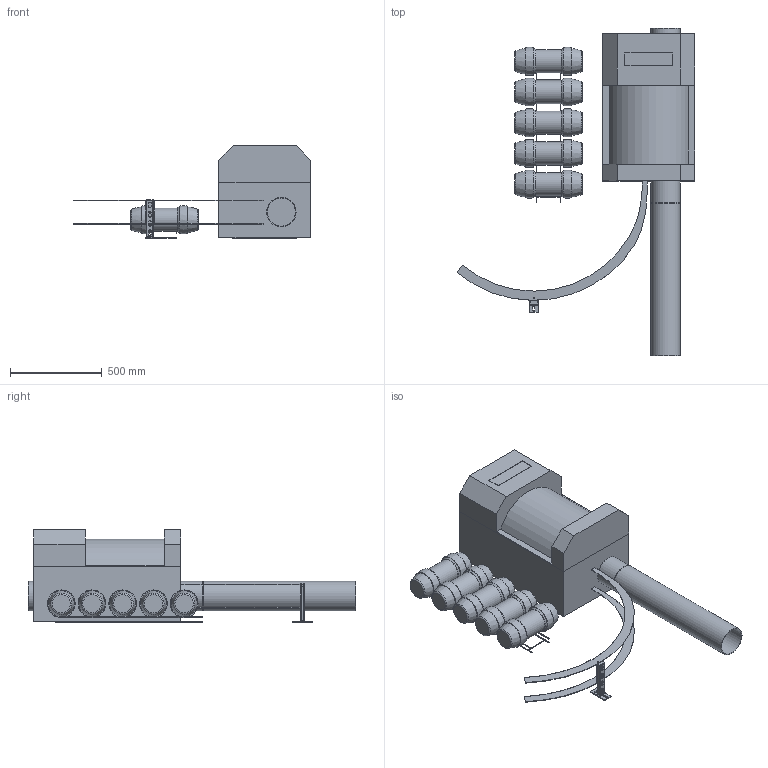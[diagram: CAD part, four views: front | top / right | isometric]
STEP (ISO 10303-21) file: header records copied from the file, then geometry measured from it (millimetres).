
FILE_DESCRIPTION(/* description */ (''),/* implementation_level */ '2;1');
FILE_NAME(/* name */ 'Q:\I_Simples\Library\Inventor\Stations\461T_A300_DF\Step\S461_T_F_RB.stp',/* time_stamp */ '2023-07-03T09:18:26+02:00',/* author */ ('Ru'),/* organization */ (''),/* preprocessor_version */ 'ST-DEVELOPER v18.1',/* originating_system */ 'Autodesk Inventor 2022',/* authorisation */ '');
FILE_SCHEMA (('AUTOMOTIVE_DESIGN { 1 0 10303 214 3 1 1 }'));
Length unit declared in the file: millimetre
Products named in the file (14): 12615T00_461 Apl_A100_AutocadDummies; 10461T_BG_A3; 10461T_Body_ A3; 10461T_Door_ A3; 1.0461.T.45; ro160-830; 10026T00_Auslaufbuegel_VA-Do160_Dummy; 10026T10_Abrollbuegel_Kurz 2; Halte winkel; 7.1166.5.21; 7.1166.5.46; Assembly2; 19001T00_Behälteranlage_Dummy_A200; 19350T0L-dummy
Assembly tree (18 placements, depth 3):
  12615T00_461 Apl_A100_AutocadDummies
    10461T_BG_A3
      10461T_Body_ A3
      10461T_Door_ A3
      1.0461.T.45
    ro160-830
    10026T00_Auslaufbuegel_VA-Do160_Dummy
      10026T10_Abrollbuegel_Kurz 2  x2
      Halte winkel
    7.1166.5.21
    7.1166.5.46
    Assembly2
      19001T00_Behälteranlage_Dummy_A200
      19350T0L-dummy  x5
Bounding box: 1291.57 x 1780 x 502 mm (x, y, z)
Volume: 203100276 mm3; surface area: 5154057.7 mm2
Topology: 18 solids, 18 shells, 1090 faces, 2793 edges, 1850 vertices
Faces by surface type: plane 584, bspline 410, cylinder 78, torus 10, cone 4, sphere 4
Full cylindrical faces by diameter (mm): 6.5 x2, 10 x1, 10.5 x10, 11 x1, 126 x5, 153.6 x3, 160 x3
Entity records: 14601 total; most frequent: CARTESIAN_POINT 3675, ORIENTED_EDGE 2214, DIRECTION 1919, EDGE_CURVE 1107, LINE 767, VECTOR 767, VERTEX_POINT 726, AXIS2_PLACEMENT_3D 576
